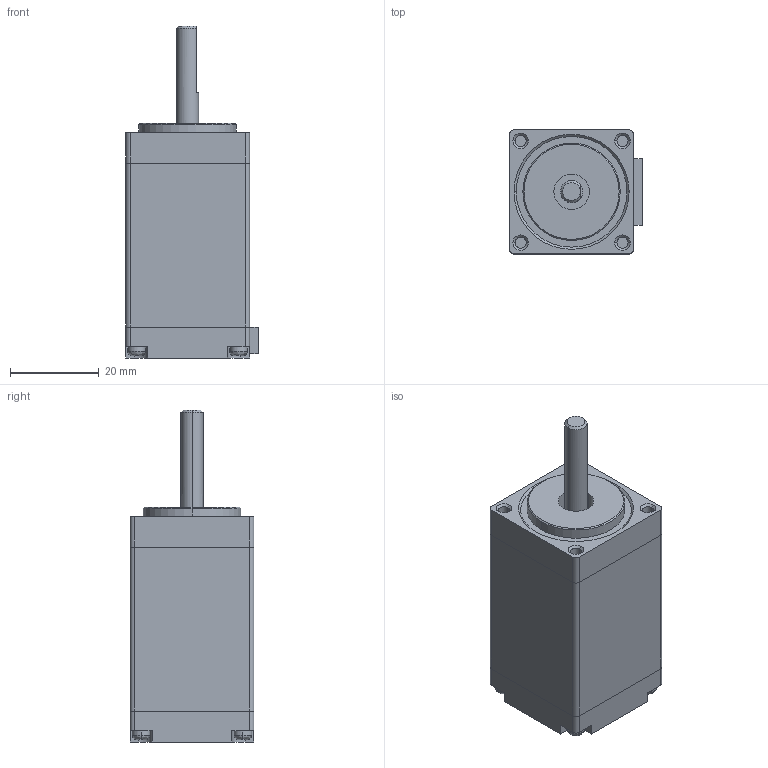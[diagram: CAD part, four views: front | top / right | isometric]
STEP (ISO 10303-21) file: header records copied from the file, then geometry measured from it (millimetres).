
FILE_DESCRIPTION (( 'STEP AP203' ), '1' );
FILE_NAME ('28J1851-407-01.STEP', '2022-06-25T02:26:26', ( 'USER-' ), ( 'MS' ), 'SwSTEP 2.0', 'SolidWorks 2018', '' );
FILE_SCHEMA (( 'CONFIG_CONTROL_DESIGN' ));
Length unit declared in the file: millimetre
Products named in the file (4): 28____1^28J1830-407-01(2)_28J1830-407-01; 28J1851-407-01; 28J1830-407-____^28J1830-407-01(2)_28J1830-407-01; 28____ 1^28J1830-407-01(2)_28J1830-407-01
Assembly tree (3 placements, depth 2):
  28J1851-407-01
    28____1^28J1830-407-01(2)_28J1830-407-01
    28J1830-407-____^28J1830-407-01(2)_28J1830-407-01
    28____ 1^28J1830-407-01(2)_28J1830-407-01
Bounding box: 30 x 28 x 75 mm (x, y, z)
Volume: 40206 mm3; surface area: 11913.2 mm2
Topology: 3 solids, 3 shells, 196 faces, 508 edges, 332 vertices
Faces by surface type: plane 114, cylinder 60, cone 14, bspline 8
Entity records: 6644 total; most frequent: CARTESIAN_POINT 1486, ORIENTED_EDGE 1016, DIRECTION 968, EDGE_CURVE 508, AXIS2_PLACEMENT_3D 340, VERTEX_POINT 332, VECTOR 288, LINE 288
